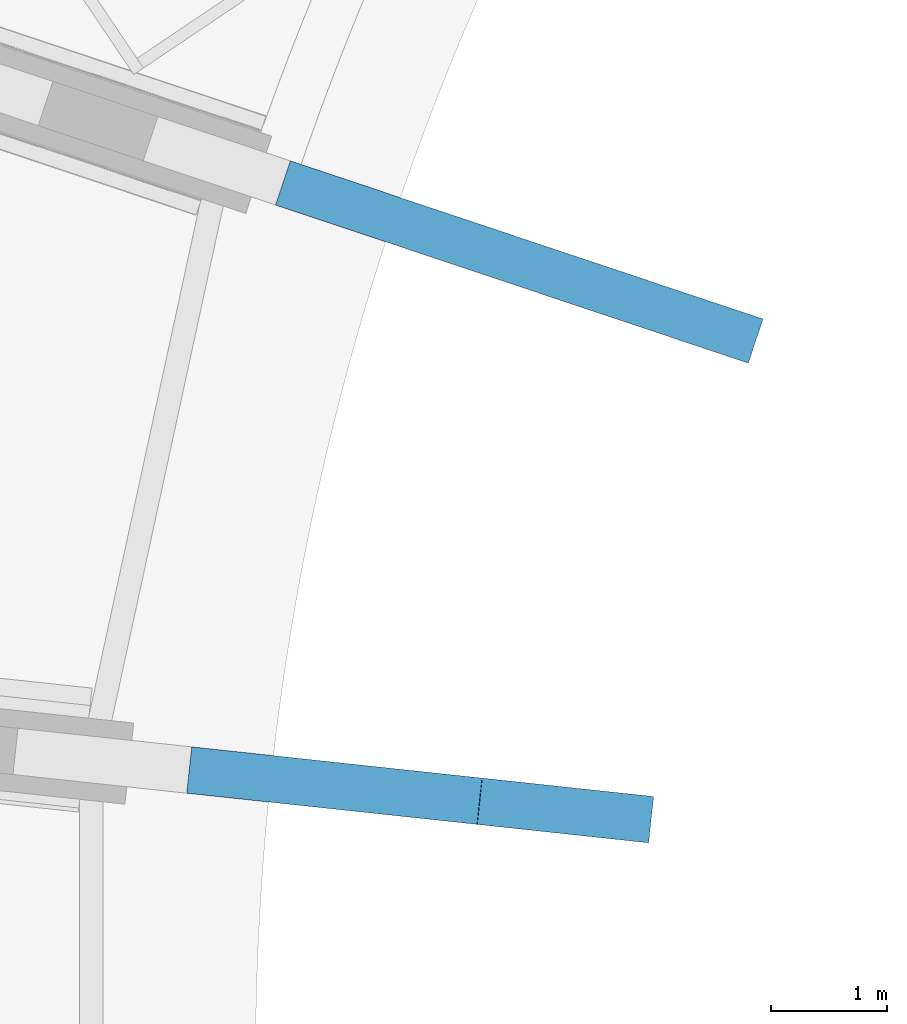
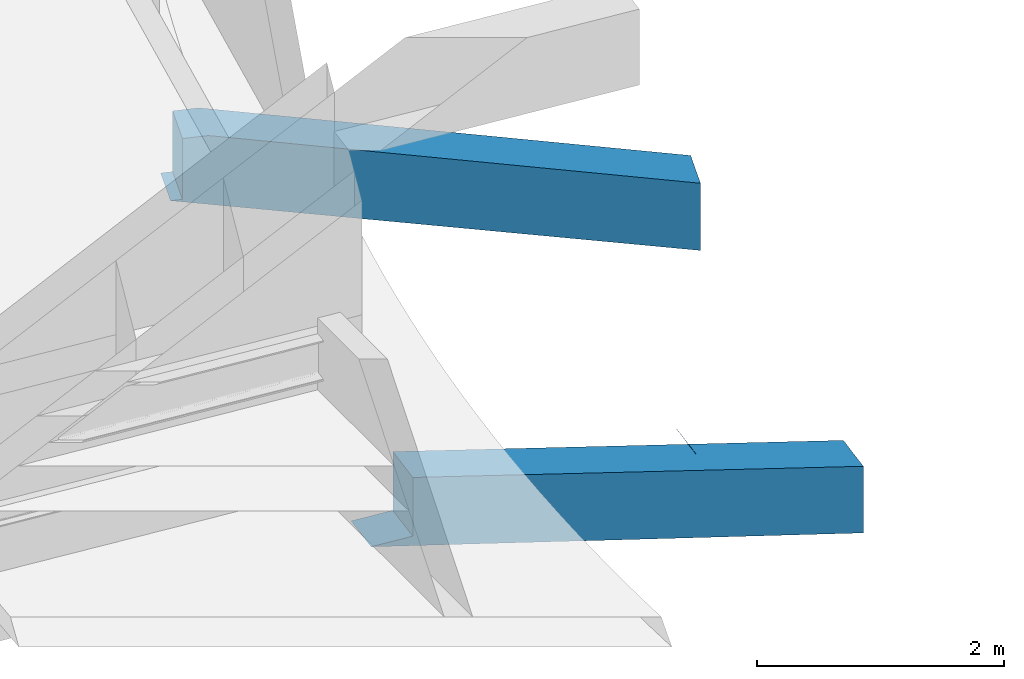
# One storey, part 31 of 37: 2 beams.
"""IFC2X3 building model written with IfcOpenShell, lengths in millimetres."""

from ifc_helpers import new_model, entity, si_unit, converted_unit, derived_unit, direction, frame, origin, place, context, subcontext, project, spatial, faceted_brep, source, transform, mapped, material, type_object, type_shapes, element, save


model = new_model("IFC2X3")

# Units and contexts
model_context = context("Model", 3, precision=0.01, world=origin(), true_north=direction((6.12303176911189e-17, 1.0)))
body_context = subcontext(model_context, "Body", "Model", "MODEL_VIEW")
ifc_project = project(units=[si_unit("LENGTHUNIT", "METRE", prefix="MILLI"), si_unit("AREAUNIT", "SQUARE_METRE", prefix="MILLI"), si_unit("VOLUMEUNIT", "CUBIC_METRE"), converted_unit("PLANEANGLEUNIT", "DEGREE", entity("IfcRatioMeasure", 0.0174532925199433), si_unit("PLANEANGLEUNIT", "RADIAN"), dimensions=[0, 0, 0, 0, 0, 0, 0]), si_unit("MASSUNIT", "GRAM", prefix="KILO"), derived_unit("MASSDENSITYUNIT", [(si_unit("MASSUNIT", "GRAM", prefix="KILO"), 1), (si_unit("LENGTHUNIT", "METRE"), -3)]), derived_unit("MOMENTOFINERTIAUNIT", [(si_unit("LENGTHUNIT", "METRE"), 4)]), si_unit("TIMEUNIT", "SECOND"), si_unit("FREQUENCYUNIT", "HERTZ"), si_unit("THERMODYNAMICTEMPERATUREUNIT", "DEGREE_CELSIUS"), derived_unit("THERMALTRANSMITTANCEUNIT", [(si_unit("MASSUNIT", "GRAM", prefix="KILO"), 1), (si_unit("THERMODYNAMICTEMPERATUREUNIT", "KELVIN"), -1), (si_unit("TIMEUNIT", "SECOND"), -3)]), derived_unit("VOLUMETRICFLOWRATEUNIT", [(si_unit("LENGTHUNIT", "METRE"), 3), (si_unit("TIMEUNIT", "SECOND"), -1)]), si_unit("ELECTRICCURRENTUNIT", "AMPERE"), si_unit("ELECTRICVOLTAGEUNIT", "VOLT"), si_unit("POWERUNIT", "WATT"), si_unit("FORCEUNIT", "NEWTON", prefix="KILO"), si_unit("ILLUMINANCEUNIT", "LUX"), si_unit("LUMINOUSFLUXUNIT", "LUMEN"), si_unit("LUMINOUSINTENSITYUNIT", "CANDELA"), derived_unit("USERDEFINED", [(si_unit("MASSUNIT", "GRAM", prefix="KILO"), -1), (si_unit("LENGTHUNIT", "METRE"), -2), (si_unit("TIMEUNIT", "SECOND"), 3), (si_unit("LUMINOUSFLUXUNIT", "LUMEN"), 1)]), derived_unit("LINEARVELOCITYUNIT", [(si_unit("LENGTHUNIT", "METRE"), 1), (si_unit("TIMEUNIT", "SECOND"), -1)]), si_unit("PRESSUREUNIT", "PASCAL"), derived_unit("USERDEFINED", [(si_unit("LENGTHUNIT", "METRE"), -2), (si_unit("MASSUNIT", "GRAM", prefix="KILO"), 1), (si_unit("TIMEUNIT", "SECOND"), -2)]), derived_unit("LINEARFORCEUNIT", [(si_unit("MASSUNIT", "GRAM", prefix="KILO"), 1), (si_unit("LENGTHUNIT", "METRE"), 1), (si_unit("TIMEUNIT", "SECOND"), -2), (si_unit("LENGTHUNIT", "METRE"), -1)]), derived_unit("PLANARFORCEUNIT", [(si_unit("MASSUNIT", "GRAM", prefix="KILO"), 1), (si_unit("LENGTHUNIT", "METRE"), 1), (si_unit("TIMEUNIT", "SECOND"), -2), (si_unit("LENGTHUNIT", "METRE"), -2)])], contexts=[model_context])

# Site, building, storey
site_placement = place(None, origin())
site = spatial("IfcSite", under=ifc_project, at=site_placement, Name="Theater aan de Parade", CompositionType="ELEMENT")
building_placement = place(site_placement, origin())
building = spatial("IfcBuilding", under=site, at=building_placement, Name="Theater aan de Parade", CompositionType="ELEMENT")
storey_placement = place(building_placement, frame((0.0, 0.0, 5020.0)))
storey = spatial("IfcBuildingStorey", under=building, at=storey_placement, Name="01 eerste verdieping", CompositionType="ELEMENT", Elevation=5020.0)

# Beams
ifc_material = material(Name="00_PBT_MAT_beton t.p.g.")
beam_type_1 = type_object("IfcBeamType", Name="28_PBT_SF_betonbalk:400x800_bestaand", PredefinedType="NOTDEFINED")
beam_1_placement = place(storey_placement, frame((49506.4898656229, 38459.8949647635, -3614.47994522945), z_axis=(0.231604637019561, -0.077494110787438, 0.96971849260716), x_axis=(0.919606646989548, -0.307697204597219, -0.244225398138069)))
element("IfcBeam", 1, at=beam_1_placement, inside=storey, type_object=beam_type_1, material=ifc_material, Name="28_PBT_SF_betonbalk:400x800_bestaand", ObjectType="28_PBT_SF_betonbalk:400x800_bestaand", context=body_context, shape_type="Brep", body=[
    faceted_brep([(3818.06519014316, 1319.22103759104, 963.231876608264), (3655.92769156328, 1319.22103759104, 1607.01312096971), (3189.7244828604, 1319.22103759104, 1608.64753434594), (2723.5212752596, 1319.22103759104, 1610.28220370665), (2257.31806826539, 1319.22103759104, 1611.91711245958), (1791.11486186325, 1319.22103759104, 1613.55224541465), (1324.91165603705, 1319.22103759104, 1615.18758864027), (858.708450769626, 1319.22103759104, 1616.82312933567), (392.505246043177, 1319.22103759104, 1618.45885571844), (-73.6979581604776, 1319.22103759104, 1620.09475692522), (-539.901161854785, 1319.22103759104, 1621.73082292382), (-748.129310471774, 1319.22103759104, 1569.28817808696), (-601.594071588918, 1319.22103759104, 987.457082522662), (-697.782389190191, 1319.22103759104, 963.23187660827), (3816.99664902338, 1519.22097090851, 963.231876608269), (-697.782389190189, 1719.22103759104, 963.23187660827), (3818.03830659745, 1719.22103759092, 963.231876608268), (3189.69968647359, 1719.22103759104, 1608.64131162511), (3655.90241151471, 1719.22103759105, 1607.00675414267), (-601.594071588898, 1719.22103759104, 987.457082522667), (-748.129310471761, 1719.22103759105, 1569.28817808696), (-539.922089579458, 1719.22103759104, 1621.72555223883), (-73.7193694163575, 1719.22103759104, 1620.08938371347), (392.483351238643, 1719.22103759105, 1618.45337583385), (858.686072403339, 1719.22103759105, 1616.81753837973), (1324.88879409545, 1719.22103759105, 1615.18188194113), (1791.09151633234, 1719.22103759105, 1613.54641800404), (2257.29423913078, 1719.22103759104, 1611.91115904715), (2723.49696250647, 1719.22103759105, 1610.27611865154), (-540.732983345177, 1519.22099189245, 1621.52132714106), (3654.9228846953, 1519.22097090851, 1606.76005849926), (1648.61921123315, 1519.21279608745, 1613.81868975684)], [[[0, 1, 2, 3, 4, 5, 6, 7, 8, 9, 10, 11, 12, 13]], [[14, 0, 13, 15, 16]], [[17, 18, 16, 15, 19, 20, 21, 22, 23, 24, 25, 26, 27, 28]], [[20, 11, 10, 29, 21]], [[14, 16, 18, 30]], [[1, 0, 14, 30]], [[19, 12, 11, 20]], [[13, 12, 19, 15]], [[6, 5, 31]], [[9, 8, 29]], [[29, 8, 31]], [[8, 7, 31]], [[26, 31, 27]], [[30, 3, 2]], [[30, 2, 1]], [[3, 30, 31]], [[5, 4, 31]], [[4, 3, 31]], [[29, 10, 9]], [[22, 21, 29]], [[23, 31, 24]], [[29, 23, 22]], [[24, 31, 25]], [[27, 31, 28]], [[26, 25, 31]], [[7, 6, 31]], [[17, 30, 18]], [[28, 30, 17]], [[28, 31, 30]], [[23, 29, 31]]]),
])
beam_type_2 = type_object("IfcBeamType", Name="28_PBT_SF_betonbalk:400x800_bestaand", PredefinedType="BEAM", material=ifc_material)
shared_shape = source(origin(), body_context, "Body", "Brep", [
    faceted_brep([(2904.86323301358, 557.40628758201, 1199.29083933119), (2902.69349066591, 557.639435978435, 1199.84043870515), (2902.1407218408, 552.725749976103, 1199.84664176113), (2901.5879530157, 547.812063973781, 1199.85284481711), (2901.03518419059, 542.898377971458, 1199.85904787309), (2900.48241536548, 537.984691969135, 1199.86525092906), (2900.06010055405, 534.230640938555, 1199.86999005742), (2899.63778574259, 530.476589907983, 1199.87472918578), (2899.21547093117, 526.722538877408, 1199.87946831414), (2898.79315611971, 522.968487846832, 1199.8842074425), (2898.37084130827, 519.21443681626, 1199.88894657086), (2897.94852649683, 515.46038578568, 1199.89368569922), (2897.52621168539, 511.706334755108, 1199.89842482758), (2897.10389687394, 507.952283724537, 1199.90316395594), (2896.75454726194, 504.846836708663, 1199.90708428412), (2896.40519764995, 501.741389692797, 1199.91100461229), (2896.05584803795, 498.635942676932, 1199.91492494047), (2895.70649842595, 495.530495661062, 1199.91884526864), (2895.35714881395, 492.425048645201, 1199.92276559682), (2895.00779920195, 489.319601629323, 1199.92668592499), (2894.65844958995, 486.214154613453, 1199.93060625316), (2894.30909997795, 483.108707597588, 1199.93452658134), (2893.95975036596, 480.003260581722, 1199.93844690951), (2893.61040075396, 476.897813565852, 1199.94236723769), (2893.26105114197, 473.792366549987, 1199.94628756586), (2892.91170152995, 470.686919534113, 1199.95020789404), (2892.56235191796, 467.581472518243, 1199.95412822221), (2892.21300230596, 464.476025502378, 1199.95804855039), (2891.86365269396, 461.370578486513, 1199.96196887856), (2891.51430308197, 458.265131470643, 1199.96588920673), (2891.16495346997, 455.159684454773, 1199.96980953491), (2890.81560385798, 452.054237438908, 1199.97372986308), (2890.46625424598, 448.948790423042, 1199.97765019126), (2890.11690463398, 445.843343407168, 1199.98157051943), (2889.76755502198, 442.737896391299, 1199.98549084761), (2889.41820540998, 439.632449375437, 1199.98941117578), (2889.06885579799, 436.527002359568, 1199.99333150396), (2888.71950618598, 433.421555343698, 1199.99725183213), (2888.37015657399, 430.316108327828, 1200.0011721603), (2888.02080696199, 427.210661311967, 1200.00509248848), (2887.67145734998, 424.105214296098, 1200.00901281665), (2887.322107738, 420.999767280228, 1200.01293314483), (2886.97275812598, 417.894320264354, 1200.016853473), (2886.623408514, 414.788873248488, 1200.02077380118), (2886.274058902, 411.683426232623, 1200.02469412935), (2885.92470929, 408.577979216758, 1200.02861445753), (2885.575359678, 405.472532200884, 1200.0325347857), (2885.226010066, 402.367085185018, 1200.03645511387), (2884.876660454, 399.261638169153, 1200.04037544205), (2884.527310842, 396.156191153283, 1200.04429577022), (2884.17796123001, 393.050744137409, 1200.0482160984), (2883.82861161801, 389.945297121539, 1200.05213642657), (2883.479262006, 386.839850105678, 1200.05605675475), (2883.12991239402, 383.734403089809, 1200.05997708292), (2882.780562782, 380.628956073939, 1200.0638974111), (2882.43121317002, 377.523509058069, 1200.06781773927), (2882.08186355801, 374.418062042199, 1200.07173806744), (2881.73251394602, 371.31261502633, 1200.07565839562), (2881.38316433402, 368.207168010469, 1200.07957872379), (2881.03381472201, 365.101720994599, 1200.08349905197), (2880.68446511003, 361.996273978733, 1200.08741938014), (2880.33511549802, 358.890826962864, 1200.09133970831), (2880.01531518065, 355.782197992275, 1200.08777496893), (2879.69551486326, 352.67356902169, 1200.08421022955), (2879.37571454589, 349.564940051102, 1200.08064549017), (2879.0559142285, 346.456311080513, 1200.07708075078), (2878.73611391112, 343.347682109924, 1200.0735160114), (2878.41631359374, 340.239053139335, 1200.06995127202), (2878.09651327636, 337.130424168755, 1200.06638653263), (2877.77671295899, 334.021795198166, 1200.06282179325), (2877.45691264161, 330.913166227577, 1200.05925705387), (2877.13711232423, 327.804537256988, 1200.05569231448), (2876.81731200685, 324.695908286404, 1200.0521275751), (2876.49751168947, 321.587279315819, 1200.04856283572), (2876.17771137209, 318.478650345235, 1200.04499809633), (2875.85791105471, 315.370021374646, 1200.04143335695), (2875.53811073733, 312.261392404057, 1200.03786861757), (2875.21831041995, 309.152763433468, 1200.03430387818), (2874.89851010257, 306.04413446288, 1200.0307391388), (2874.5787097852, 302.935505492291, 1200.02717439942), (2874.25890946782, 299.826876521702, 1200.02360966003), (2873.93910915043, 296.718247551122, 1200.02004492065), (2873.61930883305, 293.609618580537, 1200.01648018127), (2873.29950851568, 290.500989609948, 1200.01291544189), (2872.9797081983, 287.392360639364, 1200.0093507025), (2872.65990788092, 284.283731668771, 1200.00578596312), (2872.34010756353, 281.175102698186, 1200.00222122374), (2872.02030724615, 278.066473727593, 1199.99865648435), (2871.70050692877, 274.957844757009, 1199.99509174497), (2871.3807066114, 271.849215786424, 1199.99152700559), (2871.06090629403, 268.740586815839, 1199.9879622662), (2870.74110597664, 265.631957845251, 1199.98439752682), (2870.42130565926, 262.523328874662, 1199.98083278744), (2870.10150534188, 259.414699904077, 1199.97726804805), (2869.7817050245, 256.306070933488, 1199.97370330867), (2869.46190470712, 253.1974419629, 1199.97013856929), (2869.14210438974, 250.088812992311, 1199.9665738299), (2868.82230407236, 246.980184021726, 1199.96300909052), (2868.50250375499, 243.871555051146, 1199.95944435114), (2868.18270343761, 240.762926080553, 1199.95587961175), (2867.86290312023, 237.654297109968, 1199.95231487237), (2867.54310280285, 234.545668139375, 1199.94875013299), (2867.22330248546, 231.437039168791, 1199.9451853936), (2866.90350216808, 228.328410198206, 1199.94162065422), (2866.5837018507, 225.219781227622, 1199.93805591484), (2866.26390153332, 222.111152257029, 1199.93449117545), (2865.94410121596, 219.002523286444, 1199.93092643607), (2865.62430089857, 215.893894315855, 1199.92736169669), (2865.30450058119, 212.785265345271, 1199.9237969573), (2864.98470026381, 209.676636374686, 1199.92023221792), (2864.66489994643, 206.568007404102, 1199.91666747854), (2864.34509962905, 203.459378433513, 1199.91310273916), (2864.02529931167, 200.350749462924, 1199.90953799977), (2863.70549899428, 197.242120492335, 1199.90597326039), (2863.38569867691, 194.133491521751, 1199.90240852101), (2863.06589835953, 191.024862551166, 1199.89884378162), (2862.74609804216, 187.916233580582, 1199.89527904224), (2862.42629772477, 184.807604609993, 1199.89171430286), (2862.10649740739, 181.698975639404, 1199.88814956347), (2861.78669709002, 178.590346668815, 1199.88458482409), (2861.46689677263, 175.481717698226, 1199.88102008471), (2861.14709645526, 172.373088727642, 1199.87745534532), (2860.82729613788, 169.264459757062, 1199.87389060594), (2860.5074958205, 166.155830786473, 1199.87032586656), (2860.18769550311, 163.047201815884, 1199.86676112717), (2859.86789518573, 159.938572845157, 1199.86319638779), (2862.12748171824, 159.695770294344, 1199.29083933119), (2859.86789518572, 159.938572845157, 1199.29083933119), (2902.69349066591, 557.639435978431, 1199.29083933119), (2860.37393005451, 164.857489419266, 1199.29083933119), (2860.8799649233, 169.776405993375, 1199.29083933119), (2861.38599979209, 174.695322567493, 1199.29083933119), (2861.89203466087, 179.614239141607, 1199.29083933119), (2862.39806952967, 184.533155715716, 1199.29083933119), (2862.90410439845, 189.45207228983, 1199.29083933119), (2863.41013926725, 194.370988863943, 1199.29083933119), (2863.91617413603, 199.289905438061, 1199.29083933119), (2864.42220900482, 204.20882201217, 1199.29083933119), (2864.92824387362, 209.127738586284, 1199.29083933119), (2865.4342787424, 214.046655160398, 1199.29083933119), (2865.94031361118, 218.965571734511, 1199.29083933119), (2866.44634847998, 223.884488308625, 1199.29083933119), (2866.95238334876, 228.803404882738, 1199.29083933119), (2867.45841821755, 233.722321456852, 1199.29083933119), (2867.96445308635, 238.641238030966, 1199.29083933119), (2868.35106881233, 242.399339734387, 1199.29083933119), (2868.73768453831, 246.157441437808, 1199.29083933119), (2869.12430026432, 249.915543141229, 1199.29083933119), (2869.5109159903, 253.67364484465, 1199.29083933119), (2869.89753171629, 257.431746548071, 1199.29083933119), (2870.28414744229, 261.189848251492, 1199.29083933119), (2870.67076316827, 264.947949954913, 1199.29083933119), (2871.05737889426, 268.706051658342, 1199.29083933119), (2871.44399462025, 272.464153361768, 1199.29083933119), (2871.83061034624, 276.222255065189, 1199.29083933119), (2872.21722607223, 279.980356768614, 1199.29083933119), (2872.60384179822, 283.738458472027, 1199.29083933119), (2872.99045752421, 287.496560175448, 1199.29083933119), (2873.3770732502, 291.254661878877, 1199.29083933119), (2873.76368897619, 295.012763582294, 1199.29083933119), (2874.15030470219, 298.770865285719, 1199.29083933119), (2874.53692042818, 302.52896698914, 1199.29083933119), (2874.92353615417, 306.287068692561, 1199.29083933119), (2875.31015188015, 310.045170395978, 1199.29083933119), (2875.69676760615, 313.803272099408, 1199.29083933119), (2876.08338333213, 317.561373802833, 1199.29083933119), (2876.46999905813, 321.319475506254, 1199.29083933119), (2876.85661478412, 325.077577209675, 1199.29083933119), (2877.2432305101, 328.835678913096, 1199.29083933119), (2877.6298462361, 332.593780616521, 1199.29083933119), (2878.01646196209, 336.351882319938, 1199.29083933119), (2878.40307768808, 340.109984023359, 1199.29083933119), (2878.78969341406, 343.868085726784, 1199.29083933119), (2879.17630914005, 347.626187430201, 1199.29083933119), (2879.56292486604, 351.384289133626, 1199.29083933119), (2879.94954059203, 355.142390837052, 1199.29083933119), (2880.33615631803, 358.900492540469, 1199.29083933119), (2880.7584270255, 362.654143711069, 1199.29083933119), (2881.18069773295, 366.407794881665, 1199.29083933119), (2881.60296844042, 370.161446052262, 1199.29083933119), (2882.02523914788, 373.915097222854, 1199.29083933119), (2882.44750985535, 377.66874839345, 1199.29083933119), (2882.86978056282, 381.422399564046, 1199.29083933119), (2883.29205127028, 385.176050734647, 1199.29083933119), (2883.71432197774, 388.929701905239, 1199.29083933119), (2884.13659268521, 392.683353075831, 1199.29083933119), (2884.55886339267, 396.437004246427, 1199.29083933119), (2884.98113410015, 400.190655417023, 1199.29083933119), (2885.4034048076, 403.94430658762, 1199.29083933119), (2885.82567551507, 407.697957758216, 1199.29083933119), (2886.24794622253, 411.451608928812, 1199.29083933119), (2886.67021692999, 415.205260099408, 1199.29083933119), (2887.09248763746, 418.95891127, 1199.29083933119), (2887.51475834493, 422.712562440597, 1199.29083933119), (2887.93702905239, 426.466213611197, 1199.29083933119), (2888.35929975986, 430.219864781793, 1199.29083933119), (2888.78157046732, 433.97351595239, 1199.29083933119), (2889.20384117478, 437.727167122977, 1199.29083933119), (2889.62611188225, 441.480818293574, 1199.29083933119), (2890.04838258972, 445.23446946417, 1199.29083933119), (2890.47065329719, 448.988120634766, 1199.29083933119), (2890.89292400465, 452.741771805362, 1199.29083933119), (2891.31519471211, 456.495422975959, 1199.29083933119), (2891.73746541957, 460.249074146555, 1199.29083933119), (2892.15973612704, 464.002725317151, 1199.29083933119), (2892.58200683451, 467.756376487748, 1199.29083933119), (2893.00427754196, 471.510027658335, 1199.29083933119), (2893.42654824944, 475.26367882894, 1199.29083933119), (2893.8488189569, 479.017329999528, 1199.29083933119), (2894.40161093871, 483.931211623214, 1199.29083933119), (2894.95440292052, 488.845093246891, 1199.29083933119), (2895.50719490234, 493.758974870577, 1199.29083933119), (2896.05998688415, 498.672856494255, 1199.29083933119), (2896.61277886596, 503.586738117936, 1199.29083933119), (2897.16557084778, 508.500619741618, 1199.29083933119), (2897.71836282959, 513.4145013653, 1199.29083933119), (2898.27115481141, 518.328382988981, 1199.29083933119), (2898.82394679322, 523.242264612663, 1199.29083933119), (2899.37673877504, 528.156146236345, 1199.29083933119), (2899.92953075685, 533.070027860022, 1199.29083933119), (2900.48232273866, 537.983909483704, 1199.29083933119), (2900.75871872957, 540.440850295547, 1199.29083933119), (2901.03511472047, 542.89779110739, 1199.29083933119), (2901.58790670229, 547.811672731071, 1199.29083933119), (2902.1406986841, 552.725554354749, 1199.29083933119)], [[[0, 1, 2, 3, 4, 5, 6, 7, 8, 9, 10, 11, 12, 13, 14, 15, 16, 17, 18, 19, 20, 21, 22, 23, 24, 25, 26, 27, 28, 29, 30, 31, 32, 33, 34, 35, 36, 37, 38, 39, 40, 41, 42, 43, 44, 45, 46, 47, 48, 49, 50, 51, 52, 53, 54, 55, 56, 57, 58, 59, 60, 61, 62, 63, 64, 65, 66, 67, 68, 69, 70, 71, 72, 73, 74, 75, 76, 77, 78, 79, 80, 81, 82, 83, 84, 85, 86, 87, 88, 89, 90, 91, 92, 93, 94, 95, 96, 97, 98, 99, 100, 101, 102, 103, 104, 105, 106, 107, 108, 109, 110, 111, 112, 113, 114, 115, 116, 117, 118, 119, 120, 121, 122, 123, 124, 125, 126]], [[125, 127, 126]], [[1, 0, 128]], [[0, 126, 127, 129, 130, 131, 132, 133, 134, 135, 136, 137, 138, 139, 140, 141, 142, 143, 144, 145, 146, 147, 148, 149, 150, 151, 152, 153, 154, 155, 156, 157, 158, 159, 160, 161, 162, 163, 164, 165, 166, 167, 168, 169, 170, 171, 172, 173, 174, 175, 176, 177, 178, 179, 180, 181, 182, 183, 184, 185, 186, 187, 188, 189, 190, 191, 192, 193, 194, 195, 196, 197, 198, 199, 200, 201, 202, 203, 204, 205, 206, 207, 208, 209, 210, 211, 212, 213, 214, 215, 216, 217, 218, 219, 220, 221, 222, 223, 224, 128]], [[160, 81, 80]], [[161, 80, 79]], [[137, 110, 138]], [[148, 94, 149]], [[193, 41, 40]], [[221, 220, 5]], [[117, 116, 133, 118]], [[143, 100, 144]], [[141, 140, 105]], [[77, 163, 162]], [[86, 156, 155]], [[112, 137, 136]], [[97, 146, 98]], [[152, 91, 90, 89]], [[150, 93, 92]], [[203, 29, 28]], [[142, 102, 143]], [[83, 158, 157]], [[92, 151, 150]], [[95, 147, 97, 96]], [[91, 151, 92]], [[166, 72, 167]], [[138, 108, 139]], [[81, 160, 159]], [[146, 145, 98]], [[130, 123, 122, 121]], [[144, 99, 145]], [[158, 82, 159]], [[168, 70, 169]], [[106, 105, 140, 107]], [[79, 162, 161]], [[142, 141, 104]], [[82, 158, 83]], [[135, 115, 114, 113]], [[91, 152, 151]], [[145, 99, 98]], [[132, 118, 133]], [[88, 153, 89]], [[87, 155, 154]], [[74, 73, 72, 166]], [[62, 176, 175]], [[104, 103, 102, 142]], [[170, 69, 68]], [[107, 140, 139]], [[78, 77, 162, 79]], [[111, 110, 137, 112]], [[167, 72, 71]], [[113, 136, 135]], [[127, 124, 129]], [[157, 85, 84, 83]], [[141, 105, 104]], [[71, 168, 167]], [[169, 69, 170]], [[119, 132, 131]], [[110, 109, 108, 138]], [[173, 64, 174]], [[133, 116, 134]], [[121, 131, 130]], [[63, 175, 174]], [[131, 121, 120, 119]], [[208, 23, 22]], [[175, 63, 62]], [[209, 208, 22]], [[46, 45, 189]], [[14, 214, 213]], [[216, 10, 217]], [[21, 20, 209, 22]], [[40, 39, 194]], [[7, 219, 218]], [[33, 200, 199]], [[204, 27, 205]], [[128, 224, 1]], [[213, 212, 15]], [[180, 57, 56]], [[9, 8, 217, 10]], [[25, 206, 205]], [[206, 25, 24]], [[37, 196, 195]], [[214, 12, 215]], [[210, 18, 211]], [[213, 15, 14]], [[210, 209, 20]], [[212, 17, 16, 15]], [[24, 23, 207]], [[28, 27, 204]], [[185, 50, 186]], [[220, 219, 6]], [[54, 181, 56, 55]], [[196, 36, 197]], [[199, 34, 33]], [[11, 216, 215]], [[20, 19, 18, 210]], [[17, 212, 211]], [[14, 13, 12, 214]], [[132, 119, 118]], [[46, 189, 188]], [[179, 58, 57]], [[217, 8, 218]], [[34, 199, 198]], [[200, 33, 32, 31]], [[37, 195, 39, 38]], [[186, 50, 49, 48]], [[178, 59, 58]], [[57, 180, 179]], [[6, 5, 220]], [[183, 53, 52]], [[190, 45, 44, 43]], [[48, 47, 187]], [[52, 51, 184]], [[185, 51, 50]], [[45, 190, 189]], [[178, 177, 59]], [[58, 179, 178]], [[66, 171, 68, 67]], [[224, 223, 2]], [[5, 4, 221]], [[223, 3, 2]], [[1, 224, 2]], [[3, 222, 4]], [[223, 222, 3]], [[4, 222, 221]], [[27, 26, 25, 205]], [[66, 172, 171]], [[172, 65, 173]], [[182, 53, 183]], [[147, 95, 148]], [[147, 146, 97]], [[194, 39, 195]], [[156, 85, 157]], [[12, 11, 215]], [[8, 7, 218]], [[93, 150, 149]], [[100, 143, 102, 101]], [[100, 99, 144]], [[70, 168, 71]], [[163, 76, 164]], [[80, 161, 160]], [[153, 88, 154]], [[153, 152, 89]], [[108, 107, 139]], [[136, 113, 112]], [[155, 87, 86]], [[86, 85, 156]], [[166, 165, 74]], [[165, 164, 75]], [[116, 115, 134]], [[170, 68, 171]], [[123, 130, 129]], [[62, 61, 176]], [[124, 127, 125]], [[124, 123, 129]], [[216, 11, 10]], [[23, 208, 207]], [[206, 24, 207]], [[204, 203, 28]], [[203, 202, 29]], [[18, 17, 211]], [[194, 193, 40]], [[30, 29, 202]], [[30, 201, 31]], [[193, 192, 41]], [[219, 7, 6]], [[35, 198, 197]], [[47, 188, 187]], [[186, 48, 187]], [[184, 183, 52]], [[184, 51, 185]], [[42, 41, 192]], [[42, 191, 43]], [[176, 60, 177]], [[115, 135, 134]], [[66, 65, 172]], [[54, 53, 182]], [[94, 148, 95]], [[94, 93, 149]], [[76, 163, 77]], [[76, 75, 164]], [[82, 81, 159]], [[88, 87, 154]], [[70, 69, 169]], [[165, 75, 74]], [[64, 173, 65]], [[64, 63, 174]], [[198, 35, 34]], [[201, 30, 202]], [[201, 200, 31]], [[188, 47, 46]], [[36, 196, 37]], [[36, 35, 197]], [[191, 42, 192]], [[191, 190, 43]], [[60, 176, 61]], [[60, 59, 177]], [[181, 54, 182]], [[180, 56, 181]]]),
    faceted_brep([(4353.85262611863, 200.554897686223, 1.86519589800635), (4333.45368894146, 1.59527223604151, 1.61975542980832), (0.0, 467.244006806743, 1099.29083932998), (42.7357512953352, 864.954524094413, 1099.29083932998), (4376.28609650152, 399.295403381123, 1.59527223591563), (4376.28609650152, 399.29540338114, 660.290839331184), (4353.85262611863, 200.554897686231, 660.290839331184), (4333.45368894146, 1.59527223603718, 660.290839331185), (367.809939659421, 427.721204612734, 1099.29083932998), (367.809939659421, 427.721204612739, 1679.68846294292), (374.932564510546, 494.006287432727, 1679.57123807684), (382.055190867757, 560.29138426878, 1679.50227780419), (389.177817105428, 626.576479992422, 1679.48158381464), (396.300441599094, 692.861559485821, 1679.50915659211), (403.423062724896, 759.146607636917, 1679.58499541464), (410.545690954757, 825.431721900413, 1679.70909860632), (410.545690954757, 825.431721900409, 1099.29083932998), (3892.82640763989, 48.9426193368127, 773.556460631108), (3452.19918365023, 96.2899602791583, 886.822306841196), (3011.57201297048, 143.637295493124, 1000.08836373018), (2570.94489229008, 190.984625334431, 1113.35461815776), (2130.31781857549, 238.331950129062, 1226.62105805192), (1689.69078903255, 285.679270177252, 1339.88767230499), (1249.06380108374, 333.026585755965, 1453.15445067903), (808.436852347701, 380.373897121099, 1566.42138372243), (3935.64805586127, 446.643906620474, 773.558675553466), (851.183326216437, 778.083262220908, 1566.43965905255), (1291.8210011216, 730.734798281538, 1453.17038025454), (1732.45871915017, 683.386329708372, 1339.90127155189), (2173.09648292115, 636.037856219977, 1226.63234333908), (2613.73429526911, 588.689377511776, 1113.36360687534), (3054.37215926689, 541.34089325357, 1000.09507437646), (3495.0100782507, 493.992403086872, 886.826759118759), (2902.88972526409, 356.397418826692, 1033.28495791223)], [[[0, 1, 2, 3, 4]], [[0, 4, 5, 6]], [[7, 1, 0, 6]], [[8, 9, 10, 11, 12, 13, 14, 15, 16]], [[3, 2, 8, 16]], [[8, 2, 1, 7, 17, 18, 19, 20, 21, 22, 23, 24, 9]], [[25, 5, 4, 3, 16, 15, 26, 27, 28, 29, 30, 31, 32]], [[10, 9, 24]], [[11, 24, 23]], [[23, 12, 11]], [[24, 11, 10]], [[22, 12, 23]], [[32, 31, 33]], [[18, 17, 6]], [[17, 7, 6]], [[33, 12, 22]], [[20, 33, 21]], [[22, 21, 33]], [[33, 19, 18]], [[12, 33, 28]], [[26, 15, 14]], [[26, 14, 13]], [[27, 12, 28]], [[13, 27, 26]], [[28, 33, 29]], [[20, 19, 33]], [[33, 30, 29]], [[33, 18, 6]], [[33, 6, 32]], [[6, 5, 25]], [[33, 31, 30]], [[6, 25, 32]], [[12, 27, 13]]]),
])
type_shapes(beam_type_2, [shared_shape])
beam_2_placement = place(storey_placement, frame((48470.5425387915, 34342.664797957, -3609.29083932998)))
element("IfcBeam", 2, at=beam_2_placement, inside=storey, type_object=beam_type_2, material=ifc_material, Name="28_PBT_SF_betonbalk:400x800_bestaand", ObjectType="28_PBT_SF_betonbalk:400x800_bestaand", context=body_context, shape_type="MappedRepresentation", body=[
    mapped(shared_shape, transform((0.0, 0.0, 0.0), scale=1.0)),
])

save(model, "model.ifc")
